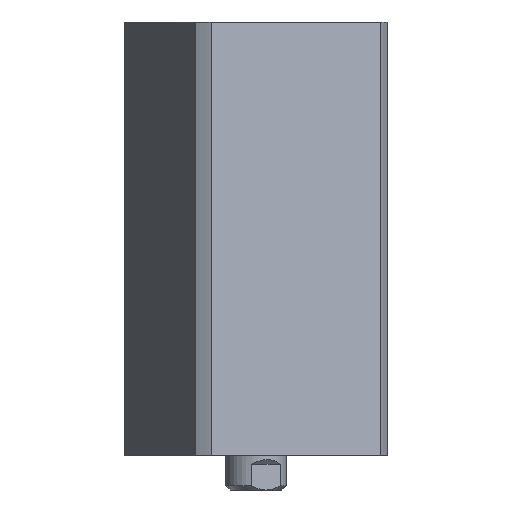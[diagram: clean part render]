
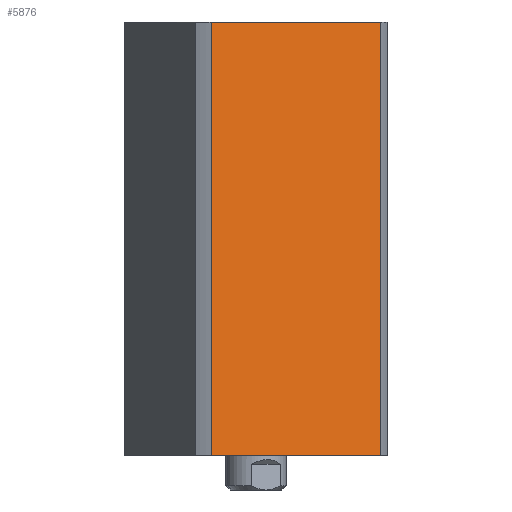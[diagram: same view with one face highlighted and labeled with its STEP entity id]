
A CAD part, left-side view. The second image highlights one B-rep face of the part: STEP entity #5876.
In plain terms, the highlighted planar face has unit normal (-0.924, -0.383, 0) as drawn and (1, 0, 0) by its records, which use the part's own axes.
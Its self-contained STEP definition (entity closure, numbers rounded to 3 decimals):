
#443 = DIRECTION ( 'NONE',  ( -1., 0., 0. ) ) ;
#828 = CARTESIAN_POINT ( 'NONE',  ( 24., 21.166, 0. ) ) ;
#837 = ORIENTED_EDGE ( 'NONE', *, *, #2383, .F. ) ;
#950 = LINE ( 'NONE', #6613, #7371 ) ;
#1219 = CARTESIAN_POINT ( 'NONE',  ( 24., -21.166, 0. ) ) ;
#1358 = CARTESIAN_POINT ( 'NONE',  ( 24., 24., 100. ) ) ;
#1442 = CARTESIAN_POINT ( 'NONE',  ( 24., 24., 0. ) ) ;
#1701 = VECTOR ( 'NONE', #4555, 1000. ) ;
#2267 = DIRECTION ( 'NONE',  ( 0., 0., -1. ) ) ;
#2363 = VECTOR ( 'NONE', #8073, 1000. ) ;
#2383 = EDGE_CURVE ( 'NONE', #4733, #5575, #4190, .T. ) ;
#2440 = CARTESIAN_POINT ( 'NONE',  ( 24., 21.166, 100. ) ) ;
#2927 = CARTESIAN_POINT ( 'NONE',  ( 24., 24., 100. ) ) ;
#2974 = VERTEX_POINT ( 'NONE', #828 ) ;
#3292 = LINE ( 'NONE', #1358, #6404 ) ;
#3550 = LINE ( 'NONE', #1442, #1701 ) ;
#3958 = EDGE_LOOP ( 'NONE', ( #837, #7473, #5534, #5189 ) ) ;
#4190 = LINE ( 'NONE', #4324, #2363 ) ;
#4248 = FACE_OUTER_BOUND ( 'NONE', #3958, .T. ) ;
#4320 = AXIS2_PLACEMENT_3D ( 'NONE', #2927, #443, #4779 ) ;
#4324 = CARTESIAN_POINT ( 'NONE',  ( 24., -21.166, -500. ) ) ;
#4432 = EDGE_CURVE ( 'NONE', #4733, #2974, #3550, .T. ) ;
#4555 = DIRECTION ( 'NONE',  ( 0., 1., 0. ) ) ;
#4643 = EDGE_CURVE ( 'NONE', #6077, #2974, #950, .T. ) ;
#4733 = VERTEX_POINT ( 'NONE', #1219 ) ;
#4779 = DIRECTION ( 'NONE',  ( 0., -1., 0. ) ) ;
#4934 = EDGE_CURVE ( 'NONE', #5575, #6077, #3292, .T. ) ;
#5189 = ORIENTED_EDGE ( 'NONE', *, *, #4934, .F. ) ;
#5379 = PLANE ( 'NONE',  #4320 ) ;
#5534 = ORIENTED_EDGE ( 'NONE', *, *, #4643, .F. ) ;
#5575 = VERTEX_POINT ( 'NONE', #7061 ) ;
#5706 = DIRECTION ( 'NONE',  ( 0., 1., 0. ) ) ;
#5876 = ADVANCED_FACE ( 'NONE', ( #4248 ), #5379, .F. ) ;
#6077 = VERTEX_POINT ( 'NONE', #2440 ) ;
#6404 = VECTOR ( 'NONE', #5706, 1000. ) ;
#6613 = CARTESIAN_POINT ( 'NONE',  ( 24., 21.166, -500. ) ) ;
#7061 = CARTESIAN_POINT ( 'NONE',  ( 24., -21.166, 100. ) ) ;
#7371 = VECTOR ( 'NONE', #2267, 1000. ) ;
#7473 = ORIENTED_EDGE ( 'NONE', *, *, #4432, .T. ) ;
#8073 = DIRECTION ( 'NONE',  ( 0., 0., 1. ) ) ;
